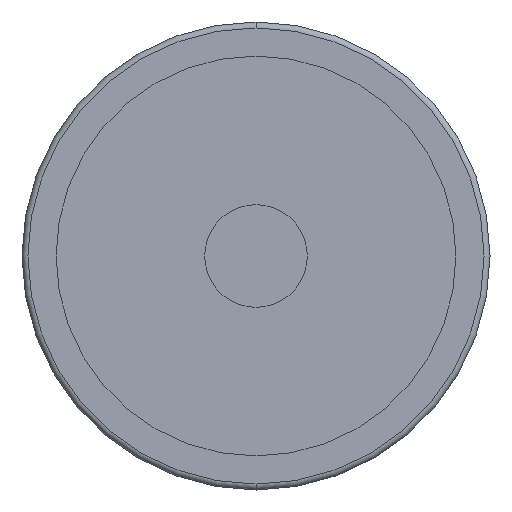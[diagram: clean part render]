
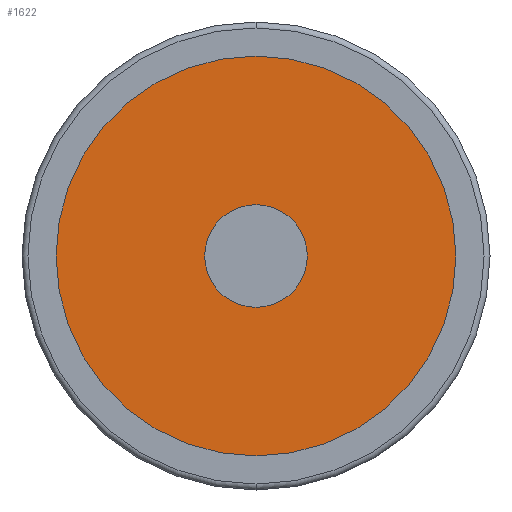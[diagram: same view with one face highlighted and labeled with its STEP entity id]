
A CAD part, front view. The second image highlights one B-rep face of the part: STEP entity #1622.
In plain terms, the highlighted planar face has unit normal (0, -1, 0).
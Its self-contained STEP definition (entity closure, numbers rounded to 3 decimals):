
#14 = CARTESIAN_POINT ( 'NONE',  ( 0., 4.5, 0. ) ) ;
#75 = DIRECTION ( 'NONE',  ( 0., -1., 0. ) ) ;
#198 = EDGE_LOOP ( 'NONE', ( #446, #1051 ) ) ;
#199 = CARTESIAN_POINT ( 'NONE',  ( -34.25, 4.5, 0. ) ) ;
#210 = CIRCLE ( 'NONE', #1214, 8. ) ;
#291 = CARTESIAN_POINT ( 'NONE',  ( 0., 4.5, 0. ) ) ;
#299 = EDGE_CURVE ( 'NONE', #506, #1143, #1173, .T. ) ;
#438 = EDGE_CURVE ( 'NONE', #1143, #506, #210, .T. ) ;
#446 = ORIENTED_EDGE ( 'NONE', *, *, #438, .F. ) ;
#478 = CARTESIAN_POINT ( 'NONE',  ( -34.25, 4.5, 0. ) ) ;
#506 = VERTEX_POINT ( 'NONE', #2118 ) ;
#605 = DIRECTION ( 'NONE',  ( 1., 0., 0. ) ) ;
#617 = ORIENTED_EDGE ( 'NONE', *, *, #1193, .T. ) ;
#623 = AXIS2_PLACEMENT_3D ( 'NONE', #291, #1280, #907 ) ;
#625 = AXIS2_PLACEMENT_3D ( 'NONE', #478, #75, #1586 ) ;
#719 = DIRECTION ( 'NONE',  ( 0., -1., 0. ) ) ;
#749 = CARTESIAN_POINT ( 'NONE',  ( 0., 4.5, 0. ) ) ;
#779 = DIRECTION ( 'NONE',  ( 0., -1., 0. ) ) ;
#833 = VERTEX_POINT ( 'NONE', #1550 ) ;
#907 = DIRECTION ( 'NONE',  ( 1., 0., 0. ) ) ;
#1044 = FACE_BOUND ( 'NONE', #198, .T. ) ;
#1047 = CIRCLE ( 'NONE', #1212, 34.25 ) ;
#1051 = ORIENTED_EDGE ( 'NONE', *, *, #299, .F. ) ;
#1143 = VERTEX_POINT ( 'NONE', #2410 ) ;
#1171 = DIRECTION ( 'NONE',  ( 1., 0., 0. ) ) ;
#1173 = CIRCLE ( 'NONE', #2032, 8. ) ;
#1193 = EDGE_CURVE ( 'NONE', #833, #1561, #1546, .T. ) ;
#1212 = AXIS2_PLACEMENT_3D ( 'NONE', #1349, #2340, #605 ) ;
#1214 = AXIS2_PLACEMENT_3D ( 'NONE', #14, #779, #1171 ) ;
#1217 = FACE_OUTER_BOUND ( 'NONE', #1426, .T. ) ;
#1280 = DIRECTION ( 'NONE',  ( 0., -1., 0. ) ) ;
#1349 = CARTESIAN_POINT ( 'NONE',  ( 0., 4.5, 0. ) ) ;
#1426 = EDGE_LOOP ( 'NONE', ( #1636, #617 ) ) ;
#1465 = DIRECTION ( 'NONE',  ( 1., 0., 0. ) ) ;
#1546 = CIRCLE ( 'NONE', #623, 34.25 ) ;
#1550 = CARTESIAN_POINT ( 'NONE',  ( 34.25, 4.5, 0. ) ) ;
#1561 = VERTEX_POINT ( 'NONE', #199 ) ;
#1586 = DIRECTION ( 'NONE',  ( 1., 0., 0. ) ) ;
#1622 = ADVANCED_FACE ( 'NONE', ( #1217, #1044 ), #1980, .T. ) ;
#1636 = ORIENTED_EDGE ( 'NONE', *, *, #2208, .T. ) ;
#1980 = PLANE ( 'NONE',  #625 ) ;
#2032 = AXIS2_PLACEMENT_3D ( 'NONE', #749, #719, #1465 ) ;
#2118 = CARTESIAN_POINT ( 'NONE',  ( -8., 4.5, 0. ) ) ;
#2208 = EDGE_CURVE ( 'NONE', #1561, #833, #1047, .T. ) ;
#2340 = DIRECTION ( 'NONE',  ( 0., -1., 0. ) ) ;
#2410 = CARTESIAN_POINT ( 'NONE',  ( 8., 4.5, 0. ) ) ;
